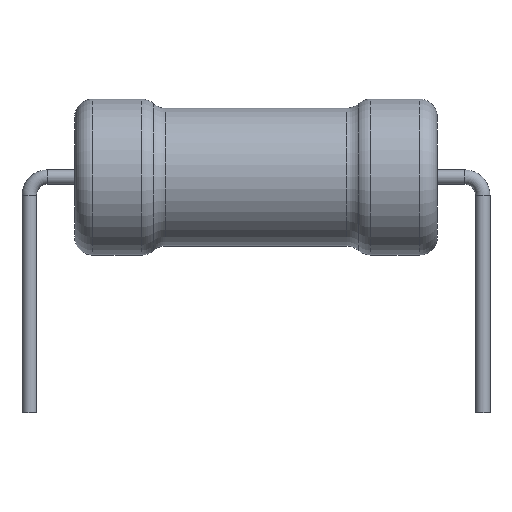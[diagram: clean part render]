
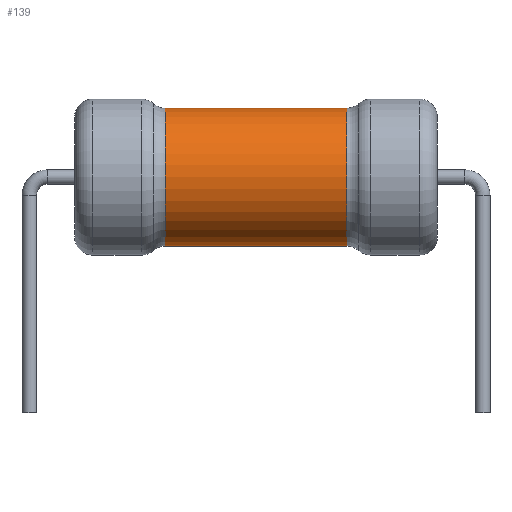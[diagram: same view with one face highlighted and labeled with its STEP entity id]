
A CAD part, front view. The second image highlights one B-rep face of the part: STEP entity #139.
In plain terms, the highlighted cylindrical face has radius 3.8 mm (diameter 7.6 mm), a full revolution.
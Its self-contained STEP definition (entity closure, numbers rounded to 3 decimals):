
#139=ADVANCED_FACE('',(#308,#310),#312,.T.);
#308=FACE_OUTER_BOUND('',#309,.T.);
#309=EDGE_LOOP('',(#413));
#310=FACE_OUTER_BOUND('',#311,.T.);
#311=EDGE_LOOP('',(#414));
#312=CYLINDRICAL_SURFACE('',#313,3.8);
#313=AXIS2_PLACEMENT_3D('',#314,#315,#316);
#314=CARTESIAN_POINT('',(5.,0.,0.));
#315=DIRECTION('',(-1.,0.,0.));
#316=DIRECTION('',(0.,0.,1.));
#413=ORIENTED_EDGE('',*,*,#440,.T.);
#414=ORIENTED_EDGE('',*,*,#441,.F.);
#440=EDGE_CURVE('',#466,#466,#467,.T.);
#441=EDGE_CURVE('',#468,#468,#469,.T.);
#466=VERTEX_POINT('',#526);
#467=CIRCLE('',#527,3.8);
#468=VERTEX_POINT('',#531);
#469=CIRCLE('',#532,3.8);
#526=CARTESIAN_POINT('',(5.,0.,3.8));
#527=AXIS2_PLACEMENT_3D('',#528,#529,#530);
#528=CARTESIAN_POINT('',(5.,0.,0.));
#529=DIRECTION('',(-1.,0.,0.));
#530=DIRECTION('',(0.,0.,1.));
#531=CARTESIAN_POINT('',(-5.,0.,3.8));
#532=AXIS2_PLACEMENT_3D('',#533,#534,#535);
#533=CARTESIAN_POINT('',(-5.,0.,0.));
#534=DIRECTION('',(-1.,0.,0.));
#535=DIRECTION('',(0.,0.,1.));
